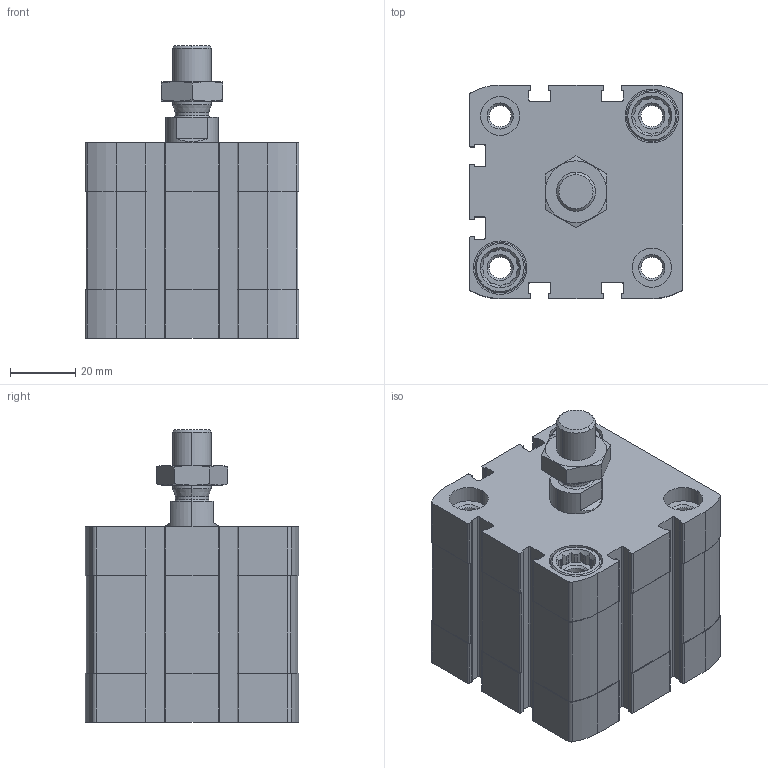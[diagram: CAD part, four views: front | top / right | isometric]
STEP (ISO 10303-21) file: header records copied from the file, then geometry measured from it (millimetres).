
FILE_DESCRIPTION (( 'STEP AP203' ), '1' );
FILE_NAME ('CCN50-15M.STEP', '2017-04-05T13:11:30', ( '' ), ( '' ), 'SwSTEP 2.0', 'SolidWorks 2016', '' );
FILE_SCHEMA (( 'CONFIG_CONTROL_DESIGN' ));
Length unit declared in the file: millimetre
Products named in the file (4): CCN-15---(Z); CCN-15_(KS); _DIN-439-B - M12x1.25(F); CCN50-15M
Assembly tree (3 placements, depth 2):
  CCN50-15M
    CCN-15---(Z)
    CCN-15_(KS)
    _DIN-439-B - M12x1.25(F)
Bounding box: 65.5 x 65.5 x 89.7 mm (x, y, z)
Volume: 207111.2 mm3; surface area: 55104.1 mm2
Topology: 3 solids, 3 shells, 491 faces, 1322 edges, 868 vertices
Faces by surface type: plane 227, cylinder 212, cone 48, bspline 4
Entity records: 16132 total; most frequent: CARTESIAN_POINT 3147, DIRECTION 2684, ORIENTED_EDGE 2644, EDGE_CURVE 1322, AXIS2_PLACEMENT_3D 983, VERTEX_POINT 868, VECTOR 718, LINE 718
